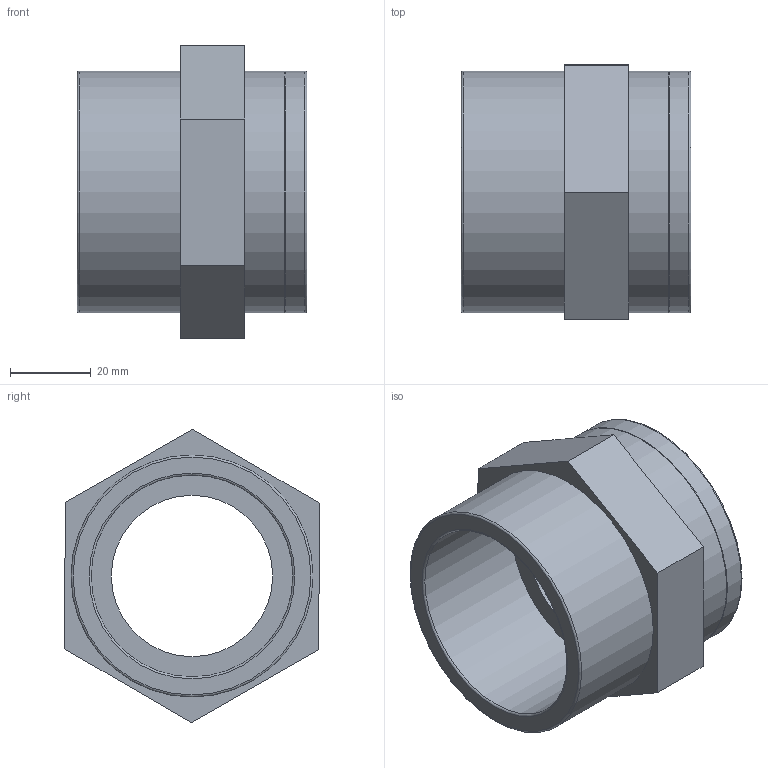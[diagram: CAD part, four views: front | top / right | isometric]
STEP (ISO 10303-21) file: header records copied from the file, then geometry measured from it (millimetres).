
FILE_DESCRIPTION(/* description */ ('PLASSON AD. SOCKET REINF.PVC 50-1.1/2"'),/* implementation_level */ '2;1');
FILE_NAME(/* name */ 'C:\Dropbox\KIMPROJECTS-Inventor\99-16-3568-Processing\PVC Catalog 2017\057102\057102050015.ipt.stp',/* time_stamp */ '2017-12-07T16:05:26+02:00',/* author */ ('KIM'),/* organization */ (''),/* preprocessor_version */ 'ST-DEVELOPER v15.6',/* originating_system */ 'Autodesk Inventor 2015',/* authorisation */ '');
FILE_SCHEMA (('AUTOMOTIVE_DESIGN { 1 0 10303 214 3 1 1 }'));
Length unit declared in the file: millimetre
Products named in the file (1): 057102050015
Bounding box: 57 x 63.1 x 72.75 mm (x, y, z)
Volume: 70239 mm3; surface area: 23923.6 mm2
Topology: 1 solids, 1 shells, 24 faces, 47 edges, 29 vertices
Faces by surface type: plane 12, cylinder 6, torus 4, cone 2
Full cylindrical faces by diameter (mm): 40 x1, 44.845 x1, 50 x1, 60 x3
Entity records: 580 total; most frequent: DIRECTION 102, CARTESIAN_POINT 89, ORIENTED_EDGE 70, EDGE_LOOP 42, AXIS2_PLACEMENT_3D 42, EDGE_CURVE 35, VERTEX_POINT 29, FACE_OUTER_BOUND 24
